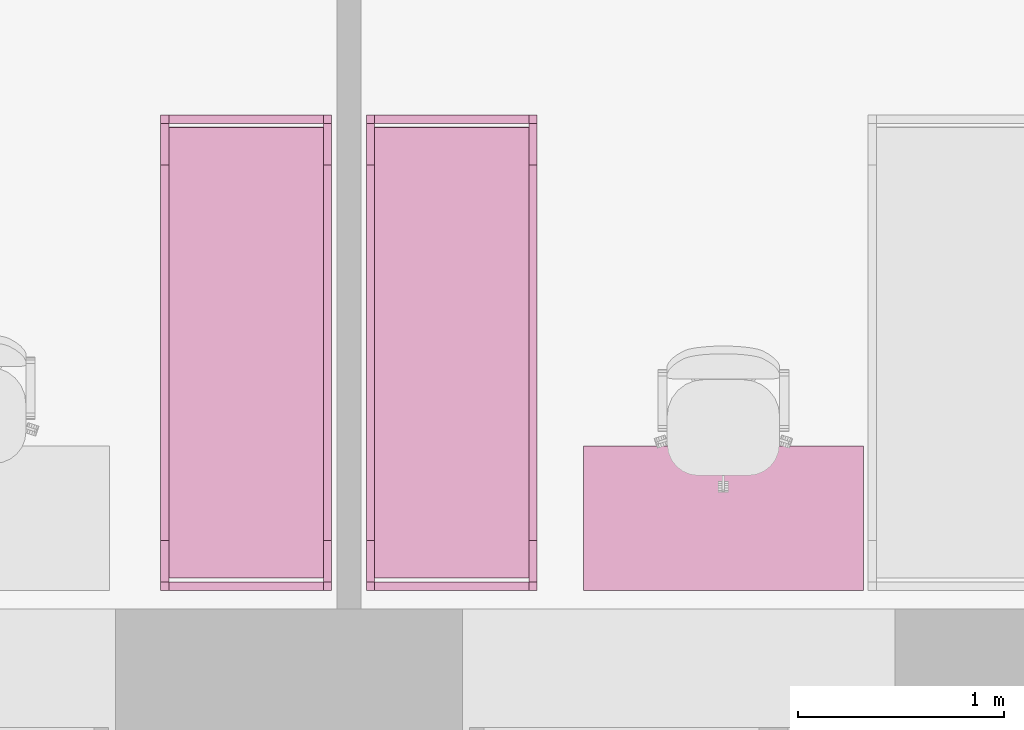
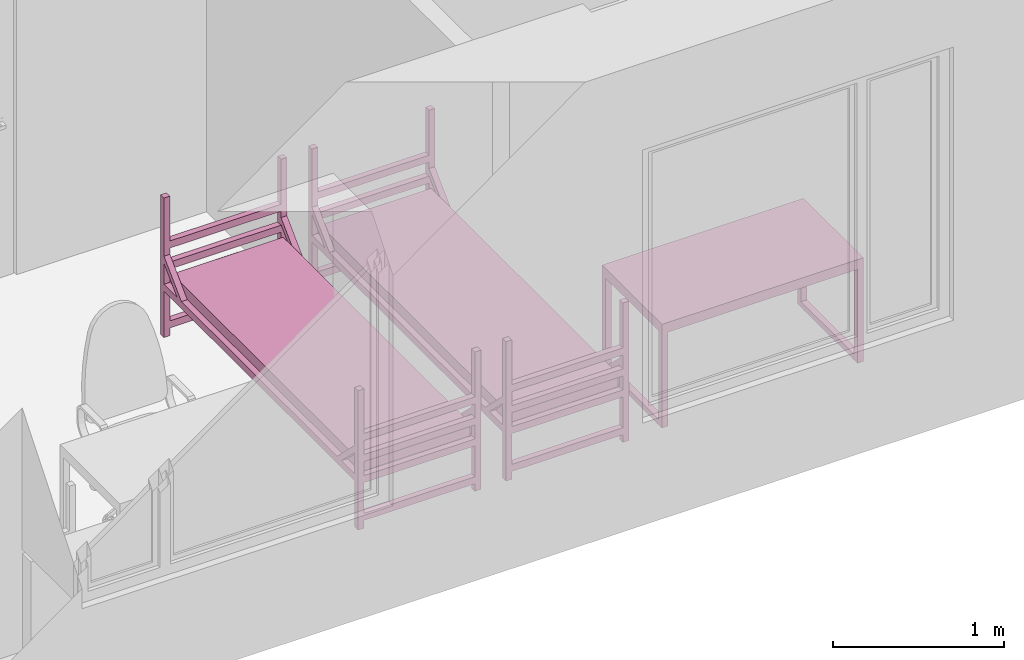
# One storey, part 37 of 46: 3 furnishings.
"""IFC2X3 building model written with IfcOpenShell, lengths in millimetres."""

from ifc_helpers import new_model, entity, si_unit, converted_unit, derived_unit, direction, frame, frame_2d, origin, origin_2d_with_axis, place, context, subcontext, project, spatial, polyline, circle_curve, parameter, trimmed, segment, composite_curve, rectangle, outline, extrude, faceted_brep, source, transform, mapped, material, material_list, type_object, type_shapes, element, save


model = new_model("IFC2X3")

# Units and contexts
model_context = context("Model", 3, precision=0.01, world=origin(), true_north=direction((6.12303176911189e-17, 1.0)))
body_context = subcontext(model_context, "Body", "Model", "MODEL_VIEW")
ifc_project = project(units=[si_unit("LENGTHUNIT", "METRE", prefix="MILLI"), si_unit("AREAUNIT", "SQUARE_METRE"), si_unit("VOLUMEUNIT", "CUBIC_METRE"), converted_unit("PLANEANGLEUNIT", "DEGREE", entity("IfcRatioMeasure", 0.0174532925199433), si_unit("PLANEANGLEUNIT", "RADIAN"), dimensions=[0, 0, 0, 0, 0, 0, 0]), si_unit("MASSUNIT", "GRAM", prefix="KILO"), derived_unit("MASSDENSITYUNIT", [(si_unit("MASSUNIT", "GRAM", prefix="KILO"), 1), (si_unit("LENGTHUNIT", "METRE"), -3)]), si_unit("TIMEUNIT", "SECOND"), si_unit("FREQUENCYUNIT", "HERTZ"), si_unit("THERMODYNAMICTEMPERATUREUNIT", "DEGREE_CELSIUS"), derived_unit("THERMALTRANSMITTANCEUNIT", [(si_unit("MASSUNIT", "GRAM", prefix="KILO"), 1), (si_unit("THERMODYNAMICTEMPERATUREUNIT", "KELVIN"), -1), (si_unit("TIMEUNIT", "SECOND"), -3)]), derived_unit("VOLUMETRICFLOWRATEUNIT", [(si_unit("LENGTHUNIT", "METRE"), 3), (si_unit("TIMEUNIT", "SECOND"), -1)]), si_unit("ELECTRICCURRENTUNIT", "AMPERE"), si_unit("ELECTRICVOLTAGEUNIT", "VOLT"), si_unit("POWERUNIT", "WATT"), si_unit("FORCEUNIT", "NEWTON", prefix="KILO"), si_unit("ILLUMINANCEUNIT", "LUX"), si_unit("LUMINOUSFLUXUNIT", "LUMEN"), si_unit("LUMINOUSINTENSITYUNIT", "CANDELA"), derived_unit("USERDEFINED", [(si_unit("MASSUNIT", "GRAM", prefix="KILO"), -1), (si_unit("LENGTHUNIT", "METRE"), -2), (si_unit("TIMEUNIT", "SECOND"), 3), (si_unit("LUMINOUSFLUXUNIT", "LUMEN"), 1)]), derived_unit("LINEARVELOCITYUNIT", [(si_unit("LENGTHUNIT", "METRE"), 1), (si_unit("TIMEUNIT", "SECOND"), -1)]), si_unit("PRESSUREUNIT", "PASCAL"), derived_unit("USERDEFINED", [(si_unit("LENGTHUNIT", "METRE"), -2), (si_unit("MASSUNIT", "GRAM", prefix="KILO"), 1), (si_unit("TIMEUNIT", "SECOND"), -2)]), derived_unit("LINEARFORCEUNIT", [(si_unit("MASSUNIT", "GRAM", prefix="KILO"), 1), (si_unit("LENGTHUNIT", "METRE"), 1), (si_unit("TIMEUNIT", "SECOND"), -2), (si_unit("LENGTHUNIT", "METRE"), -1)]), derived_unit("PLANARFORCEUNIT", [(si_unit("MASSUNIT", "GRAM", prefix="KILO"), 1), (si_unit("LENGTHUNIT", "METRE"), 1), (si_unit("TIMEUNIT", "SECOND"), -2), (si_unit("LENGTHUNIT", "METRE"), -2)])], contexts=[model_context])

# Site, building, storey, space
site_placement = place(None, origin())
site = spatial("IfcSite", under=ifc_project, at=site_placement, Name="Default", CompositionType="ELEMENT")
building_placement = place(site_placement, origin())
building = spatial("IfcBuilding", under=site, at=building_placement, Name="SMA ARH", CompositionType="ELEMENT")
storey_placement = place(building_placement, origin())
storey = spatial("IfcBuildingStorey", under=building, at=storey_placement, Name="1 Korrus", CompositionType="ELEMENT", Elevation=0.0)
space_1_placement = place(storey_placement, origin())
space_1 = spatial("IfcSpace", under=storey, at=space_1_placement, Name="1-7", CompositionType="ELEMENT", InteriorOrExteriorSpace="INTERNAL")

# Furnishing
ifc_material_1 = material(Name="Madrats")
furniture_type_1 = type_object("IfcFurnitureType", Name="Kasarmu voodi ühekordne 2308x830:Kasarmu voodi ühekordne 2308x830", material=ifc_material_1)
shared_shape_1 = source(origin(), body_context, "Body", "SweptSolid", [
    extrude(rectangle(XDim=39.9999999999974, YDim=750.000000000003, at=frame_2d((-1.35003119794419e-13, -2.8421709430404e-14), x_axis=(1.0, 0.0))), frame((1.68638457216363, -1226.7969571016, 55.0), z_axis=(0.0, 0.0, 1.0), x_axis=(0.0, -1.0, 0.0)), (0.0, 0.0, 1.0), 49.9999999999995),
    extrude(rectangle(XDim=39.9999999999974, YDim=750.000000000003, at=frame_2d((-1.35003119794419e-13, -2.8421709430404e-14), x_axis=(1.0, 0.0))), frame((1.68638457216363, -1226.7969571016, 325.0), z_axis=(0.0, 0.0, 1.0), x_axis=(0.0, -1.0, 0.0)), (0.0, 0.0, 1.0), 49.9999999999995),
    extrude(rectangle(XDim=39.9999999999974, YDim=750.000000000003, at=frame_2d((-1.35003119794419e-13, -2.8421709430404e-14), x_axis=(1.0, 0.0))), frame((1.68638457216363, -1226.7969571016, 475.0), z_axis=(0.0, 0.0, 1.0), x_axis=(0.0, -1.0, 0.0)), (0.0, 0.0, 1.0), 49.9999999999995),
    extrude(rectangle(XDim=39.9999999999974, YDim=750.000000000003, at=frame_2d((-1.35003119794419e-13, -2.8421709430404e-14), x_axis=(1.0, 0.0))), frame((1.68638457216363, -1226.7969571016, 625.0), z_axis=(0.0, 0.0, 1.0), x_axis=(0.0, -1.0, 0.0)), (0.0, 0.0, 1.0), 50.0000000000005),
    extrude(rectangle(XDim=39.9999999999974, YDim=750.000000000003, at=frame_2d((1.35003119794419e-13, -2.8421709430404e-14), x_axis=(1.0, 0.0))), frame((1.68638457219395, 1041.2030428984, 55.0), z_axis=(0.0, 0.0, 1.0), x_axis=(0.0, -1.0, 0.0)), (0.0, 0.0, 1.0), 50.0000000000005),
    extrude(rectangle(XDim=39.9999999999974, YDim=750.000000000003, at=frame_2d((1.35003119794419e-13, -2.8421709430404e-14), x_axis=(1.0, 0.0))), frame((1.68638457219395, 1041.2030428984, 325.0), z_axis=(0.0, 0.0, 1.0), x_axis=(0.0, -1.0, 0.0)), (0.0, 0.0, 1.0), 50.0000000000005),
    extrude(rectangle(XDim=39.9999999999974, YDim=750.000000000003, at=frame_2d((1.35003119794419e-13, -2.8421709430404e-14), x_axis=(1.0, 0.0))), frame((1.68638457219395, 1041.2030428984, 475.0), z_axis=(0.0, 0.0, 1.0), x_axis=(0.0, -1.0, 0.0)), (0.0, 0.0, 1.0), 50.0000000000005),
    extrude(rectangle(XDim=39.9999999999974, YDim=750.000000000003, at=frame_2d((1.35003119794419e-13, -2.8421709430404e-14), x_axis=(1.0, 0.0))), frame((1.68638457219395, 1041.2030428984, 625.0), z_axis=(0.0, 0.0, 1.0), x_axis=(0.0, -1.0, 0.0)), (0.0, 0.0, 1.0), 49.9999999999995),
    extrude(outline(composite_curve([segment(trimmed(circle_curve(frame_2d((1085.0, -40.0), x_axis=(1.0, 0.0)), 10.0), [parameter(270.0)], [parameter(0.0)], True, "PARAMETER"), True, "CONTINUOUS"), segment(polyline([(1095.0, -40.0), (1095.0, 40.0)]), True, "CONTINUOUS"), segment(trimmed(circle_curve(frame_2d((1085.0, 40.0), x_axis=(1.0, 0.0)), 10.0), [parameter(0.0)], [parameter(90.0000000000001)], True, "PARAMETER"), True, "CONTINUOUS"), segment(polyline([(1085.0, 50.0), (-1085.0, 50.0)]), True, "CONTINUOUS"), segment(trimmed(circle_curve(frame_2d((-1085.0, 40.0), x_axis=(1.0, 0.0)), 10.0), [parameter(90.0000000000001)], [parameter(180.0)], True, "PARAMETER"), True, "CONTINUOUS"), segment(polyline([(-1095.0, 40.0), (-1095.0, -40.0)]), True, "CONTINUOUS"), segment(trimmed(circle_curve(frame_2d((-1085.0, -40.0), x_axis=(1.0, 0.0)), 10.0), [parameter(180.0)], [parameter(270.0)], True, "PARAMETER"), True, "CONTINUOUS"), segment(polyline([(-1085.0, -50.0), (1085.0, -50.0)]), True, "CONTINUOUS")], self_intersect=False)), frame((-373.313615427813, -92.7969571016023, 405.0), z_axis=(1.0, 0.0, 0.0), x_axis=(0.0, -1.0, 0.0)), (0.0, 0.0, 1.0), 750.000000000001),
    extrude(outline(polyline([(-1114.0, -100.0), (1114.0, -100.0), (1114.0, -50.0), (961.59199141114, -50.0), (1114.0, 100.0), (1114.0, 150.0), (910.789321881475, -50.0), (-910.789321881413, -50.0), (-1114.0, 150.0), (-1114.0, 100.0), (-961.591991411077, -50.0), (-1114.0, -50.0), (-1114.0, -100.0)])), frame((-413.313615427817, -92.7969571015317, 430.0), z_axis=(1.0, 0.0, 0.0), x_axis=(0.0, 1.0, 0.0)), (0.0, 0.0, 1.0), 39.9999999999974),
    extrude(outline(polyline([(-1114.0, -100.0), (1114.0, -100.0), (1114.0, -50.0), (961.591991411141, -50.0), (1114.0, 100.0), (1114.0, 150.0), (910.789321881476, -50.0), (-910.789321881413, -50.0), (-1114.0, 150.0), (-1114.0, 100.0), (-961.591991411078, -50.0), (-1114.0, -50.0), (-1114.0, -100.0)])), frame((376.686384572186, -92.796957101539, 430.0), z_axis=(1.0, 0.0, 0.0), x_axis=(0.0, 1.0, 0.0)), (0.0, 0.0, 1.0), 39.9999999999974),
    extrude(rectangle(XDim=39.9999999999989, YDim=39.9999999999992, at=frame_2d((-6.75015598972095e-14, 0.0), x_axis=(1.0, 0.0))), frame((396.686384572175, -1226.79695710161, 0.0), z_axis=(0.0, 0.0, 1.0), x_axis=(0.0, 1.0, 0.0)), (0.0, 0.0, 1.0), 995.0),
    extrude(rectangle(XDim=39.9999999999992, YDim=39.9999999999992, at=frame_2d((-1.35003119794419e-13, 0.0), x_axis=(1.0, 0.0))), frame((396.686384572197, 1041.20304289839, 0.0), z_axis=(0.0, 0.0, 1.0), x_axis=(0.0, 1.0, 0.0)), (0.0, 0.0, 1.0), 995.0),
    extrude(rectangle(XDim=40.0000000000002, YDim=39.9999999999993, at=frame_2d((-1.35003119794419e-13, 0.0), x_axis=(1.0, 0.0))), frame((-393.313615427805, 1041.2030428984, 0.0), z_axis=(0.0, 0.0, 1.0), x_axis=(0.0, 1.0, 0.0)), (0.0, 0.0, 1.0), 995.0),
    extrude(rectangle(XDim=39.9999999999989, YDim=39.9999999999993, at=frame_2d((-6.75015598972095e-14, 0.0), x_axis=(1.0, 0.0))), frame((-393.313615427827, -1226.7969571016, 0.0), z_axis=(0.0, 0.0, 1.0), x_axis=(0.0, 1.0, 0.0)), (0.0, 0.0, 1.0), 995.0),
])
type_shapes(furniture_type_1, [shared_shape_1])
furnishing_1_placement = place(space_1_placement, frame((26577.3136154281, 1336.79695710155, 0.0)))
element("IfcFurnishingElement", 1, at=furnishing_1_placement, inside=space_1, type_object=furniture_type_1, material=ifc_material_1, Name="Kasarmu voodi ühekordne 2308x830:Kasarmu voodi ühekordne 2308x830", ObjectType="Kasarmu voodi ühekordne 2308x830:Kasarmu voodi ühekordne 2308x830", context=body_context, shape_type="MappedRepresentation", body=[
    mapped(shared_shape_1, transform((0.0, 0.0, 0.0), scale=1.0)),
])

# Space
space_2_placement = place(storey_placement, origin())
space_2 = spatial("IfcSpace", under=storey, at=space_2_placement, Name="1-6", CompositionType="ELEMENT", InteriorOrExteriorSpace="INTERNAL")

# Furnishings
ifc_material_2 = material(Name="<Unnamed>")
ifc_material_list = material_list([ifc_material_2, ifc_material_2])
furniture_type_2 = type_object("IfcFurnitureType", Name="kirjutuslaud 1360x700mm:kirjutuslaud 1360x700mm", material=ifc_material_list)
shared_shape_2 = source(origin(), body_context, "Body", "Brep", [
    faceted_brep([(680.0, -350.0, 720.0), (680.0, 350.0, 720.0), (680.0, 350.0, 750.0), (680.0, -350.0, 750.0), (-680.0, -350.0, 720.0), (-680.0, -350.0, 750.0), (-680.0, 350.0, 750.0), (-680.0, 350.0, 720.0)], [[[0, 1, 2, 3]], [[4, 5, 6, 7]], [[1, 0, 4, 7]], [[2, 1, 7, 6]], [[3, 2, 6, 5]], [[0, 3, 5, 4]]]),
    faceted_brep([(-640.0, -310.0, 680.0), (-640.0, 310.0, 680.0), (-640.0, 310.0, 720.0), (-640.0, -310.0, 720.0), (-680.0, -350.0, 720.0), (-680.0, 350.0, 720.0), (-680.0, 350.0, 10.0), (-680.0, -350.0, 10.0), (-680.0, 310.0, 680.0), (-680.0, -310.0, 680.0), (-680.0, -310.0, 50.0), (-680.0, 310.0, 50.0), (-640.0, -350.0, 10.0), (-640.0, -350.0, 680.0), (640.0, -350.0, 680.0), (640.0, -350.0, 10.0), (680.0, -350.0, 10.0), (680.0, -350.0, 720.0), (-640.0, 350.0, 10.0), (680.0, 350.0, 720.0), (680.0, 350.0, 10.0), (640.0, 350.0, 10.0), (640.0, 350.0, 680.0), (-640.0, 350.0, 680.0), (640.0, 310.0, 720.0), (640.0, -310.0, 720.0), (-640.0, 310.0, 50.0), (-640.0, -310.0, 50.0), (640.0, -310.0, 680.0), (640.0, 310.0, 680.0), (680.0, 310.0, 680.0), (680.0, 310.0, 50.0), (680.0, -310.0, 50.0), (680.0, -310.0, 680.0), (640.0, -310.0, 50.0), (640.0, 310.0, 50.0)], [[[0, 1, 2, 3]], [[4, 5, 6, 7], [8, 9, 10, 11]], [[4, 7, 12, 13, 14, 15, 16, 17]], [[18, 12, 7, 6]], [[6, 5, 19, 20, 21, 22, 23, 18]], [[19, 5, 4, 17], [2, 24, 25, 3]], [[26, 1, 8, 11]], [[27, 26, 11, 10]], [[0, 27, 10, 9]], [[1, 0, 9, 8]], [[14, 13, 0, 28]], [[24, 2, 1, 29]], [[3, 25, 28, 0]], [[17, 16, 20, 19], [30, 31, 32, 33]], [[21, 15, 14, 28, 34, 35, 29, 22]], [[20, 16, 15, 21]], [[31, 30, 29, 35]], [[32, 31, 35, 34]], [[33, 32, 34, 28]], [[30, 33, 28, 29]], [[29, 28, 25, 24]], [[29, 1, 23, 22]], [[12, 18, 23, 1, 26, 27, 0, 13]]]),
    faceted_brep([(-663.729456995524, -270.466136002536, 0.0), (-659.847171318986, -269.955023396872, 0.0), (-655.964885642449, -270.466136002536, 0.0), (-652.347171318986, -271.964642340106, 0.0), (-649.240569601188, -274.348421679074, 0.0), (-646.85679026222, -277.455023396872, 0.0), (-645.35828392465, -281.072737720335, 0.0), (-644.847171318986, -284.955023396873, 0.0), (-645.35828392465, -288.83730907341, 0.0), (-646.85679026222, -292.455023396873, 0.0), (-649.240569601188, -295.561625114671, 0.0), (-652.347171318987, -297.945404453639, 0.0), (-655.964885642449, -299.443910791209, 0.0), (-659.847171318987, -299.955023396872, 0.0), (-663.729456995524, -299.443910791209, 0.0), (-667.347171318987, -297.945404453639, 0.0), (-670.453773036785, -295.561625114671, 0.0), (-672.837552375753, -292.455023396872, 0.0), (-674.336058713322, -288.83730907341, 0.0), (-674.847171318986, -284.955023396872, 0.0), (-674.336058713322, -281.072737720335, 0.0), (-672.837552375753, -277.455023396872, 0.0), (-670.453773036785, -274.348421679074, 0.0), (-667.347171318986, -271.964642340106, 0.0), (-655.964885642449, -299.443910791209, 10.0), (-652.347171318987, -297.945404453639, 10.0), (-649.240569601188, -295.561625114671, 10.0), (-646.85679026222, -292.455023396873, 10.0), (-645.35828392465, -288.83730907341, 10.0), (-644.847171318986, -284.955023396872, 10.0), (-645.35828392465, -281.072737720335, 10.0), (-646.85679026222, -277.455023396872, 10.0), (-649.240569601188, -274.348421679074, 10.0), (-652.347171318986, -271.964642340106, 10.0), (-655.964885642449, -270.466136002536, 10.0), (-659.847171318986, -269.955023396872, 10.0), (-663.729456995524, -270.466136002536, 10.0), (-667.347171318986, -271.964642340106, 10.0), (-670.453773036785, -274.348421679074, 10.0), (-672.837552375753, -277.455023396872, 10.0), (-674.336058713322, -281.072737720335, 10.0), (-674.847171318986, -284.955023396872, 10.0), (-674.336058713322, -288.83730907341, 10.0), (-672.837552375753, -292.455023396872, 10.0), (-670.453773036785, -295.561625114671, 10.0), (-667.347171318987, -297.945404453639, 10.0), (-663.729456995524, -299.443910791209, 10.0), (-659.847171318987, -299.955023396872, 10.0)], [[[0, 1, 2, 3, 4, 5, 6, 7, 8, 9, 10, 11, 12, 13, 14, 15, 16, 17, 18, 19, 20, 21, 22, 23]], [[24, 25, 26, 27, 28, 29, 30, 31, 32, 33, 34, 35, 36, 37, 38, 39, 40, 41, 42, 43, 44, 45, 46, 47]], [[18, 42, 41, 19]], [[17, 43, 42, 18]], [[45, 44, 16, 15]], [[17, 16, 44, 43]], [[46, 45, 15, 14]], [[47, 46, 14, 13]], [[12, 24, 47, 13]], [[11, 25, 24, 12]], [[27, 26, 10, 9]], [[11, 10, 26, 25]], [[28, 27, 9, 8]], [[29, 28, 8, 7]], [[6, 30, 29, 7]], [[5, 31, 30, 6]], [[33, 32, 4, 3]], [[5, 4, 32, 31]], [[34, 33, 3, 2]], [[35, 34, 2, 1]], [[0, 36, 35, 1]], [[23, 37, 36, 0]], [[39, 38, 22, 21]], [[23, 22, 38, 37]], [[40, 39, 21, 20]], [[41, 40, 20, 19]]]),
    faceted_brep([(-655.964885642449, 270.466136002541, 10.0), (-652.347171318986, 271.964642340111, 10.0), (-649.240569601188, 274.348421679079, 10.0), (-646.85679026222, 277.455023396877, 10.0), (-645.35828392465, 281.07273772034, 10.0), (-644.847171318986, 284.955023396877, 10.0), (-645.35828392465, 288.837309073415, 10.0), (-646.85679026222, 292.455023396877, 10.0), (-649.240569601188, 295.561625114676, 10.0), (-652.347171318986, 297.945404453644, 10.0), (-655.964885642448, 299.443910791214, 10.0), (-659.847171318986, 299.955023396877, 10.0), (-663.729456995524, 299.443910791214, 10.0), (-667.347171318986, 297.945404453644, 10.0), (-670.453773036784, 295.561625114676, 10.0), (-672.837552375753, 292.455023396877, 10.0), (-674.336058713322, 288.837309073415, 10.0), (-674.847171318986, 284.955023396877, 10.0), (-674.336058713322, 281.07273772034, 10.0), (-672.837552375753, 277.455023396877, 10.0), (-670.453773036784, 274.348421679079, 10.0), (-667.347171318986, 271.964642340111, 10.0), (-663.729456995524, 270.466136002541, 10.0), (-659.847171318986, 269.955023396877, 10.0), (-655.964885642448, 299.443910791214, 0.0), (-652.347171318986, 297.945404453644, 0.0), (-649.240569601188, 295.561625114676, 0.0), (-646.85679026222, 292.455023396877, 0.0), (-645.35828392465, 288.837309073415, 0.0), (-644.847171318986, 284.955023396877, 0.0), (-645.35828392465, 281.07273772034, 0.0), (-646.85679026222, 277.455023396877, 0.0), (-649.240569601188, 274.348421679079, 0.0), (-652.347171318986, 271.964642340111, 0.0), (-655.964885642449, 270.466136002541, 0.0), (-659.847171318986, 269.955023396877, 0.0), (-663.729456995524, 270.466136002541, 0.0), (-667.347171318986, 271.964642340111, 0.0), (-670.453773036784, 274.348421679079, 0.0), (-672.837552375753, 277.455023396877, 0.0), (-674.336058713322, 281.07273772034, 0.0), (-674.847171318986, 284.955023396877, 0.0), (-674.336058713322, 288.837309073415, 0.0), (-672.837552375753, 292.455023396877, 0.0), (-670.453773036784, 295.561625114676, 0.0), (-667.347171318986, 297.945404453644, 0.0), (-663.729456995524, 299.443910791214, 0.0), (-659.847171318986, 299.955023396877, 0.0)], [[[0, 1, 2, 3, 4, 5, 6, 7, 8, 9, 10, 11, 12, 13, 14, 15, 16, 17, 18, 19, 20, 21, 22, 23]], [[24, 25, 26, 27, 28, 29, 30, 31, 32, 33, 34, 35, 36, 37, 38, 39, 40, 41, 42, 43, 44, 45, 46, 47]], [[40, 18, 17, 41]], [[39, 19, 18, 40]], [[21, 20, 38, 37]], [[39, 38, 20, 19]], [[22, 21, 37, 36]], [[23, 22, 36, 35]], [[34, 0, 23, 35]], [[33, 1, 0, 34]], [[3, 2, 32, 31]], [[33, 32, 2, 1]], [[4, 3, 31, 30]], [[5, 4, 30, 29]], [[28, 6, 5, 29]], [[27, 7, 6, 28]], [[9, 8, 26, 25]], [[27, 26, 8, 7]], [[10, 9, 25, 24]], [[11, 10, 24, 47]], [[46, 12, 11, 47]], [[45, 13, 12, 46]], [[15, 14, 44, 43]], [[45, 44, 14, 13]], [[16, 15, 43, 42]], [[17, 16, 42, 41]]]),
    faceted_brep([(656.270543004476, -270.466136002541, 0.0), (660.152828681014, -269.955023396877, 0.0), (664.035114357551, -270.466136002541, 0.0), (667.652828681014, -271.96464234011, 0.0), (670.759430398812, -274.348421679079, 0.0), (673.14320973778, -277.455023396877, 0.0), (674.64171607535, -281.072737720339, 0.0), (675.152828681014, -284.955023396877, 0.0), (674.64171607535, -288.837309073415, 0.0), (673.14320973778, -292.455023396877, 0.0), (670.759430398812, -295.561625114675, 0.0), (667.652828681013, -297.945404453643, 0.0), (664.035114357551, -299.443910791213, 0.0), (660.152828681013, -299.955023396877, 0.0), (656.270543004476, -299.443910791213, 0.0), (652.652828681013, -297.945404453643, 0.0), (649.546226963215, -295.561625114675, 0.0), (647.162447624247, -292.455023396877, 0.0), (645.663941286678, -288.837309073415, 0.0), (645.152828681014, -284.955023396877, 0.0), (645.663941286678, -281.072737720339, 0.0), (647.162447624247, -277.455023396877, 0.0), (649.546226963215, -274.348421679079, 0.0), (652.652828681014, -271.96464234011, 0.0), (664.035114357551, -299.443910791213, 10.0), (667.652828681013, -297.945404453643, 10.0), (670.759430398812, -295.561625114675, 10.0), (673.14320973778, -292.455023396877, 10.0), (674.64171607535, -288.837309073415, 10.0), (675.152828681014, -284.955023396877, 10.0), (674.64171607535, -281.072737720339, 10.0), (673.14320973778, -277.455023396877, 10.0), (670.759430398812, -274.348421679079, 10.0), (667.652828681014, -271.96464234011, 10.0), (664.035114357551, -270.466136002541, 10.0), (660.152828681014, -269.955023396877, 10.0), (656.270543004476, -270.466136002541, 10.0), (652.652828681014, -271.96464234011, 10.0), (649.546226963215, -274.348421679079, 10.0), (647.162447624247, -277.455023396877, 10.0), (645.663941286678, -281.072737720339, 10.0), (645.152828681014, -284.955023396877, 10.0), (645.663941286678, -288.837309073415, 10.0), (647.162447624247, -292.455023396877, 10.0), (649.546226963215, -295.561625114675, 10.0), (652.652828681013, -297.945404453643, 10.0), (656.270543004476, -299.443910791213, 10.0), (660.152828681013, -299.955023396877, 10.0)], [[[0, 1, 2, 3, 4, 5, 6, 7, 8, 9, 10, 11, 12, 13, 14, 15, 16, 17, 18, 19, 20, 21, 22, 23]], [[24, 25, 26, 27, 28, 29, 30, 31, 32, 33, 34, 35, 36, 37, 38, 39, 40, 41, 42, 43, 44, 45, 46, 47]], [[18, 42, 41, 19]], [[17, 43, 42, 18]], [[45, 44, 16, 15]], [[17, 16, 44, 43]], [[46, 45, 15, 14]], [[47, 46, 14, 13]], [[12, 24, 47, 13]], [[11, 25, 24, 12]], [[27, 26, 10, 9]], [[11, 10, 26, 25]], [[28, 27, 9, 8]], [[29, 28, 8, 7]], [[6, 30, 29, 7]], [[5, 31, 30, 6]], [[33, 32, 4, 3]], [[5, 4, 32, 31]], [[34, 33, 3, 2]], [[35, 34, 2, 1]], [[0, 36, 35, 1]], [[23, 37, 36, 0]], [[39, 38, 22, 21]], [[23, 22, 38, 37]], [[40, 39, 21, 20]], [[41, 40, 20, 19]]]),
    faceted_brep([(664.035114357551, 270.466136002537, 10.0), (667.652828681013, 271.964642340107, 10.0), (670.759430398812, 274.348421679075, 10.0), (673.14320973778, 277.455023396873, 10.0), (674.64171607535, 281.072737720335, 10.0), (675.152828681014, 284.955023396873, 10.0), (674.64171607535, 288.837309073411, 10.0), (673.14320973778, 292.455023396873, 10.0), (670.759430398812, 295.561625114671, 10.0), (667.652828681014, 297.94540445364, 10.0), (664.035114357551, 299.443910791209, 10.0), (660.152828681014, 299.955023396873, 10.0), (656.270543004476, 299.443910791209, 10.0), (652.652828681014, 297.94540445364, 10.0), (649.546226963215, 295.561625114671, 10.0), (647.162447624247, 292.455023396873, 10.0), (645.663941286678, 288.837309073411, 10.0), (645.152828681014, 284.955023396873, 10.0), (645.663941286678, 281.072737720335, 10.0), (647.162447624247, 277.455023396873, 10.0), (649.546226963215, 274.348421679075, 10.0), (652.652828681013, 271.964642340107, 10.0), (656.270543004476, 270.466136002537, 10.0), (660.152828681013, 269.955023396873, 10.0), (664.035114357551, 299.443910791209, 0.0), (667.652828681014, 297.94540445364, 0.0), (670.759430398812, 295.561625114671, 0.0), (673.14320973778, 292.455023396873, 0.0), (674.64171607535, 288.837309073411, 0.0), (675.152828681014, 284.955023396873, 0.0), (674.64171607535, 281.072737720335, 0.0), (673.14320973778, 277.455023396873, 0.0), (670.759430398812, 274.348421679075, 0.0), (667.652828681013, 271.964642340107, 0.0), (664.035114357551, 270.466136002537, 0.0), (660.152828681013, 269.955023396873, 0.0), (656.270543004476, 270.466136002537, 0.0), (652.652828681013, 271.964642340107, 0.0), (649.546226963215, 274.348421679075, 0.0), (647.162447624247, 277.455023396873, 0.0), (645.663941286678, 281.072737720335, 0.0), (645.152828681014, 284.955023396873, 0.0), (645.663941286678, 288.837309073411, 0.0), (647.162447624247, 292.455023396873, 0.0), (649.546226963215, 295.561625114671, 0.0), (652.652828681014, 297.94540445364, 0.0), (656.270543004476, 299.443910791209, 0.0), (660.152828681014, 299.955023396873, 0.0)], [[[0, 1, 2, 3, 4, 5, 6, 7, 8, 9, 10, 11, 12, 13, 14, 15, 16, 17, 18, 19, 20, 21, 22, 23]], [[24, 25, 26, 27, 28, 29, 30, 31, 32, 33, 34, 35, 36, 37, 38, 39, 40, 41, 42, 43, 44, 45, 46, 47]], [[40, 18, 17, 41]], [[39, 19, 18, 40]], [[21, 20, 38, 37]], [[39, 38, 20, 19]], [[22, 21, 37, 36]], [[23, 22, 36, 35]], [[34, 0, 23, 35]], [[33, 1, 0, 34]], [[3, 2, 32, 31]], [[33, 32, 2, 1]], [[4, 3, 31, 30]], [[5, 4, 30, 29]], [[28, 6, 5, 29]], [[27, 7, 6, 28]], [[9, 8, 26, 25]], [[27, 26, 8, 7]], [[10, 9, 25, 24]], [[11, 10, 24, 47]], [[46, 12, 11, 47]], [[45, 13, 12, 46]], [[15, 14, 44, 43]], [[45, 44, 14, 13]], [[16, 15, 43, 42]], [[17, 16, 42, 41]]]),
])
type_shapes(furniture_type_2, [shared_shape_2])
furnishing_2_placement = place(space_2_placement, frame((28897.0, 440.0, 0.0)))
element("IfcFurnishingElement", 2, at=furnishing_2_placement, inside=space_2, type_object=furniture_type_2, Name="kirjutuslaud 1360x700mm:kirjutuslaud 1360x700mm", ObjectType="kirjutuslaud 1360x700mm:kirjutuslaud 1360x700mm", context=body_context, shape_type="MappedRepresentation", body=[
    mapped(shared_shape_2, transform((0.0, 0.0, 0.0), scale=1.0)),
])
furniture_type_3 = type_object("IfcFurnitureType", Name="Kasarmu voodi ühekordne 2308x830:Kasarmu voodi ühekordne 2308x830", material=ifc_material_1)
shared_shape_3 = source(origin(), body_context, "Body", "SweptSolid", [
    extrude(rectangle(XDim=750.000000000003, YDim=39.9999999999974, at=frame_2d((0.0, 1.35003119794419e-13), x_axis=(1.0, 0.0))), frame((1.68638457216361, 1226.7969571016, 55.0)), (0.0, 0.0, 1.0), 49.9999999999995),
    extrude(rectangle(XDim=750.000000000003, YDim=39.9999999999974, at=frame_2d((0.0, 1.35003119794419e-13), x_axis=(1.0, 0.0))), frame((1.68638457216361, 1226.7969571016, 325.0)), (0.0, 0.0, 1.0), 49.9999999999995),
    extrude(rectangle(XDim=750.000000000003, YDim=39.9999999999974, at=frame_2d((0.0, 1.35003119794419e-13), x_axis=(1.0, 0.0))), frame((1.68638457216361, 1226.7969571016, 475.0)), (0.0, 0.0, 1.0), 49.9999999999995),
    extrude(rectangle(XDim=750.000000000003, YDim=39.9999999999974, at=frame_2d((0.0, 1.35003119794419e-13), x_axis=(1.0, 0.0))), frame((1.68638457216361, 1226.7969571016, 625.0)), (0.0, 0.0, 1.0), 50.0000000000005),
    extrude(rectangle(XDim=750.000000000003, YDim=39.9999999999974, at=origin_2d_with_axis()), frame((1.68638457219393, -1041.2030428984, 55.0)), (0.0, 0.0, 1.0), 50.0000000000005),
    extrude(rectangle(XDim=750.000000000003, YDim=39.9999999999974, at=origin_2d_with_axis()), frame((1.68638457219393, -1041.2030428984, 325.0)), (0.0, 0.0, 1.0), 50.0000000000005),
    extrude(rectangle(XDim=750.000000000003, YDim=39.9999999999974, at=origin_2d_with_axis()), frame((1.68638457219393, -1041.2030428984, 475.0)), (0.0, 0.0, 1.0), 50.0000000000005),
    extrude(rectangle(XDim=750.000000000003, YDim=39.9999999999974, at=origin_2d_with_axis()), frame((1.68638457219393, -1041.2030428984, 625.0)), (0.0, 0.0, 1.0), 49.9999999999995),
    extrude(outline(composite_curve([segment(polyline([(-1085.0, -50.0), (1085.0, -50.0)]), True, "CONTINUOUS"), segment(trimmed(circle_curve(frame_2d((1085.0, -40.0), x_axis=(-1.0, 0.0)), 10.0), [parameter(90.0000000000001)], [parameter(180.0)], True, "PARAMETER"), True, "CONTINUOUS"), segment(polyline([(1095.0, -40.0), (1095.0, 40.0)]), True, "CONTINUOUS"), segment(trimmed(circle_curve(frame_2d((1085.0, 40.0), x_axis=(-1.0, 0.0)), 10.0), [parameter(180.0)], [parameter(270.0)], True, "PARAMETER"), True, "CONTINUOUS"), segment(polyline([(1085.0, 50.0), (-1085.0, 50.0)]), True, "CONTINUOUS"), segment(trimmed(circle_curve(frame_2d((-1085.0, 40.0), x_axis=(-1.0, 0.0)), 10.0), [parameter(270.0)], [parameter(0.0)], True, "PARAMETER"), True, "CONTINUOUS"), segment(polyline([(-1095.0, 40.0), (-1095.0, -40.0)]), True, "CONTINUOUS"), segment(trimmed(circle_curve(frame_2d((-1085.0, -40.0), x_axis=(-1.0, 0.0)), 10.0), [parameter(0.0)], [parameter(90.0000000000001)], True, "PARAMETER"), True, "CONTINUOUS")], self_intersect=False)), frame((-373.313615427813, 92.7969571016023, 405.0), z_axis=(1.0, 0.0, 0.0), x_axis=(0.0, -1.0, 0.0)), (0.0, 0.0, 1.0), 750.000000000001),
    extrude(outline(polyline([(-100.0, -1114.0), (-50.0, -1114.0), (-50.0, -961.591991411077), (100.0, -1114.0), (150.0, -1114.0), (-50.0, -910.789321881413), (-50.0, 910.789321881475), (150.0, 1114.0), (100.0, 1114.0), (-50.0, 961.591991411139), (-50.0, 1114.0), (-100.0, 1114.0), (-100.0, -1114.0)])), frame((-413.313615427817, 92.7969571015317, 430.0), z_axis=(1.0, 0.0, 0.0), x_axis=(0.0, 0.0, 1.0)), (0.0, 0.0, 1.0), 39.9999999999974),
    extrude(outline(polyline([(-100.0, -1114.0), (-50.0, -1114.0), (-50.0, -961.591991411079), (100.0, -1114.0), (150.0, -1114.0), (-50.0, -910.789321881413), (-50.0, 910.789321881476), (150.0, 1114.0), (100.0, 1114.0), (-50.0, 961.591991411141), (-50.0, 1114.0), (-100.0, 1114.0), (-100.0, -1114.0)])), frame((376.686384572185, 92.796957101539, 430.0), z_axis=(1.0, 0.0, 0.0), x_axis=(0.0, 0.0, 1.0)), (0.0, 0.0, 1.0), 39.9999999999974),
    extrude(rectangle(XDim=39.9999999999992, YDim=39.9999999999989, at=frame_2d((0.0, -6.75015598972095e-14), x_axis=(1.0, 0.0))), frame((396.686384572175, 1226.79695710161, 0.0), z_axis=(0.0, 0.0, 1.0), x_axis=(-1.0, 0.0, 0.0)), (0.0, 0.0, 1.0), 995.0),
    extrude(rectangle(XDim=39.9999999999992, YDim=39.9999999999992, at=origin_2d_with_axis()), frame((396.686384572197, -1041.20304289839, 0.0), z_axis=(0.0, 0.0, 1.0), x_axis=(-1.0, 0.0, 0.0)), (0.0, 0.0, 1.0), 995.0),
    extrude(rectangle(XDim=39.9999999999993, YDim=40.0000000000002, at=origin_2d_with_axis()), frame((-393.313615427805, -1041.2030428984, 0.0), z_axis=(0.0, 0.0, 1.0), x_axis=(-1.0, 0.0, 0.0)), (0.0, 0.0, 1.0), 995.0),
    extrude(rectangle(XDim=39.9999999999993, YDim=39.9999999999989, at=frame_2d((0.0, -6.75015598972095e-14), x_axis=(1.0, 0.0))), frame((-393.313615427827, 1226.7969571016, 0.0), z_axis=(0.0, 0.0, 1.0), x_axis=(-1.0, 0.0, 0.0)), (0.0, 0.0, 1.0), 995.0),
])
type_shapes(furniture_type_3, [shared_shape_3])
furnishing_3_placement = place(space_2_placement, frame((27579.6863845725, 1336.79695710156, 0.0), z_axis=(0.0, 0.0, 1.0), x_axis=(-1.0, 0.0, 0.0)))
element("IfcFurnishingElement", 3, at=furnishing_3_placement, inside=space_2, type_object=furniture_type_3, material=ifc_material_1, Name="Kasarmu voodi ühekordne 2308x830:Kasarmu voodi ühekordne 2308x830", ObjectType="Kasarmu voodi ühekordne 2308x830:Kasarmu voodi ühekordne 2308x830", context=body_context, shape_type="MappedRepresentation", body=[
    mapped(shared_shape_3, transform((0.0, 0.0, 0.0), scale=1.0)),
])

save(model, "model.ifc")
